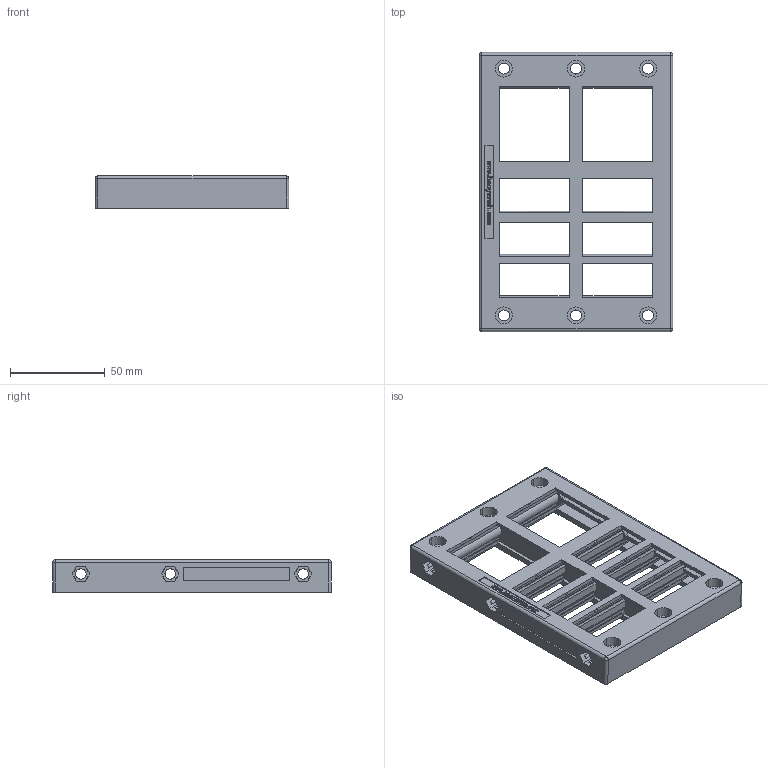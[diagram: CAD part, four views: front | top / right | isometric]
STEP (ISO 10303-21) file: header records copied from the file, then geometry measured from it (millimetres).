
FILE_DESCRIPTION((''),'2;1');
FILE_NAME('N10027','2025-06-06T10:24:20',('lyj'),(''),'CREO PARAMETRIC BY PTC INC, 2019010','CREO PARAMETRIC BY PTC INC, 2019010','');
FILE_SCHEMA(('CONFIG_CONTROL_DESIGN'));
Length unit declared in the file: millimetre
Products named in the file (1): N10027
Bounding box: 102 x 147 x 17 mm (x, y, z)
Volume: 93355.3 mm3; surface area: 63349 mm2
Topology: 1 solids, 9 shells, 1168 faces, 3398 edges, 2258 vertices
Faces by surface type: plane 704, cylinder 214, extrusion 106, cone 60, bspline 40, torus 24, sphere 20
Entity records: 41668 total; most frequent: CARTESIAN_POINT 11488, ORIENTED_EDGE 6756, DIRECTION 5448, EDGE_CURVE 3378, VECTOR 2460, LINE 2354, VERTEX_POINT 2258, AXIS2_PLACEMENT_3D 1494
